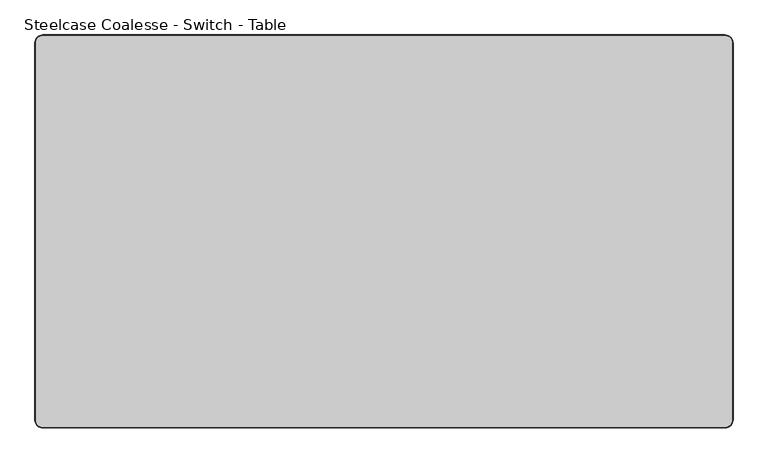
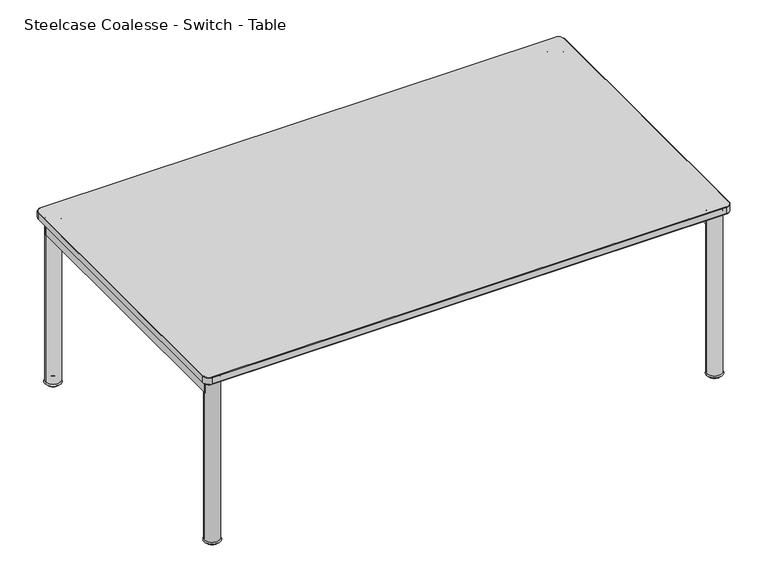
"""IFC4 building model written with IfcOpenShell, lengths in millimetres: furniture geometry, Steelcase Coalesse - Switch - Table : 24 3⁄8D x 43 1⁄4W."""

from ifc_helpers import new_model, si_unit, point, frame, frame_2d, origin, place, context, project, spatial, polyline, circle_curve, ellipse_curve, trimmed, segment, composite_curve, outline, extrude, source, transform, mapped, element, save
from ifc_brep_helpers import plane_surface, cylinder_surface, revolved_surface, advanced_brep


def steelcase_coalesse_switch_table_0ef8ef29(model_context):
    return source(origin(), model_context, "Body", "SolidModel", [
        advanced_brep(
        [(12.4295179, -619.252, 377.2369545), (0.0, -606.8224821, 377.2369545), (0.0, -606.8224821, 363.6309536), (12.4295179, -619.252, 363.6309536), (1085.7330835, -619.252, 363.6309536), (1085.7330835, -619.252, 377.2369545), (1098.55, -606.4350835, 363.6309536), (1098.55, -606.4350835, 377.2369545), (1098.55, -12.7743097, 363.6309536), (1098.55, -12.7743097, 377.2369545), (1085.7756903, 0.0, 363.6309536), (1085.7756903, 0.0, 377.2369545), (12.5332952, 0.0, 363.6309536), (12.5332952, 0.0, 377.2369545), (0.0, -12.5332952, 363.6309536), (0.0, -12.5332952, 377.2369545), (1.1384964, -606.8224821, 378.3754509), (12.4295179, -618.1135036, 378.3754509), (1085.7330835, -618.1135036, 378.3754509), (1097.4115036, -606.4350835, 378.3754509), (1097.4115036, -12.7743097, 378.3754509), (1085.7756903, -1.1384964, 378.3754509), (12.5332952, -1.1384964, 378.3754509), (1.1384964, -12.5332952, 378.3754509), (12.4295179, -618.1135036, 362.4924572), (1.1384964, -606.8224821, 362.4924572), (1.1384964, -12.5332952, 362.4924572), (12.5332952, -1.1384964, 362.4924572), (1085.7756903, -1.1384964, 362.4924572), (1097.4115036, -12.7743097, 362.4924572), (1097.4115036, -606.4350835, 362.4924572), (1085.7330835, -618.1135036, 362.4924572)],
        [
            (0, 1, circle_curve(frame((12.4295179, -606.8224821, 377.2369545), z_axis=(0.0, 0.0, -1.0), x_axis=(-1.0, 0.0, 0.0)), 12.4295179)),
            (1, 2),
            (2, 3, circle_curve(frame((12.4295179, -606.8224821, 363.6309536), z_axis=(0.0, 0.0, 1.0), x_axis=(-1.0, 0.0, 0.0)), 12.4295179)),
            (3, 0),
            (3, 4),
            (4, 5),
            (5, 0),
            (4, 6, circle_curve(frame((1085.7330835, -606.4350835, 363.6309536), z_axis=(0.0, 0.0, 1.0), x_axis=(0.0, -1.0, 0.0)), 12.8169165)),
            (6, 7),
            (7, 5, circle_curve(frame((1085.7330835, -606.4350835, 377.2369545), z_axis=(0.0, 0.0, -1.0), x_axis=(0.0, -1.0, 0.0)), 12.8169165)),
            (6, 8),
            (8, 9),
            (9, 7),
            (8, 10, circle_curve(frame((1085.7756903, -12.7743097, 363.6309536), z_axis=(0.0, 0.0, 1.0), x_axis=(1.0, 0.0, 0.0)), 12.7743097)),
            (10, 11),
            (11, 9, circle_curve(frame((1085.7756903, -12.7743097, 377.2369545), z_axis=(0.0, 0.0, -1.0), x_axis=(1.0, 0.0, 0.0)), 12.7743097)),
            (10, 12),
            (12, 13),
            (13, 11),
            (12, 14, circle_curve(frame((12.5332952, -12.5332952, 363.6309536), z_axis=(0.0, 0.0, 1.0), x_axis=(0.0, 1.0, 0.0)), 12.5332952)),
            (14, 15),
            (15, 13, circle_curve(frame((12.5332952, -12.5332952, 377.2369545), z_axis=(0.0, 0.0, -1.0), x_axis=(0.0, 1.0, 0.0)), 12.5332952)),
            (1, 15),
            (14, 2),
            (16, 17, circle_curve(frame((12.4295179, -606.8224821, 378.3754509), z_axis=(0.0, 0.0, 1.0), x_axis=(-1.0, 0.0, 0.0)), 11.2910215)),
            (17, 18),
            (18, 19, circle_curve(frame((1085.7330835, -606.4350835, 378.3754509), z_axis=(0.0, 0.0, 1.0), x_axis=(0.0, -1.0, 0.0)), 11.6784201)),
            (19, 20),
            (20, 21, circle_curve(frame((1085.7756903, -12.7743097, 378.3754509), z_axis=(0.0, 0.0, 1.0), x_axis=(1.0, 0.0, 0.0)), 11.6358133)),
            (21, 22),
            (22, 23, circle_curve(frame((12.5332952, -12.5332952, 378.3754509), z_axis=(0.0, 0.0, 1.0), x_axis=(0.0, 1.0, 0.0)), 11.3947988)),
            (23, 16),
            (24, 25, circle_curve(frame((12.4295179, -606.8224821, 362.4924572), z_axis=(0.0, 0.0, -1.0), x_axis=(-1.0, 0.0, 0.0)), 11.2910215)),
            (25, 26),
            (26, 27, circle_curve(frame((12.5332952, -12.5332952, 362.4924572), z_axis=(0.0, 0.0, -1.0), x_axis=(0.0, 1.0, 0.0)), 11.3947988)),
            (27, 28),
            (28, 29, circle_curve(frame((1085.7756903, -12.7743097, 362.4924572), z_axis=(0.0, 0.0, -1.0), x_axis=(1.0, 0.0, 0.0)), 11.6358133)),
            (29, 30),
            (30, 31, circle_curve(frame((1085.7330835, -606.4350835, 362.4924572), z_axis=(0.0, 0.0, -1.0), x_axis=(0.0, -1.0, 0.0)), 11.6784201)),
            (31, 24),
            (2, 25),
            (24, 3),
            (0, 17),
            (16, 1),
            (31, 4),
            (5, 18),
            (30, 6),
            (7, 19),
            (29, 8),
            (9, 20),
            (28, 10),
            (11, 21),
            (27, 12),
            (13, 22),
            (26, 14),
            (15, 23),
        ],
        [
            cylinder_surface(frame((12.4295179, -606.8224821, 0.0), z_axis=(0.0, 0.0, 1.0), x_axis=(-1.0, 0.0, 0.0)), 12.4295179),
            plane_surface(frame((12.4295179, -619.252, 363.6309536), z_axis=(0.0, -1.0, 0.0), x_axis=(1.0, 0.0, 0.0))),
            cylinder_surface(frame((1085.7330835, -606.4350835, 0.0), z_axis=(0.0, 0.0, 1.0), x_axis=(0.0, -1.0, 0.0)), 12.8169165),
            plane_surface(frame((1098.55, -606.4350835, 363.6309536), z_axis=(1.0, 0.0, 0.0), x_axis=(0.0, 1.0, 0.0))),
            cylinder_surface(frame((1085.7756903, -12.7743097, 0.0), z_axis=(0.0, 0.0, 1.0), x_axis=(1.0, 0.0, 0.0)), 12.7743097),
            plane_surface(frame((1085.7756903, 0.0, 363.6309536), z_axis=(0.0, 1.0, 0.0), x_axis=(-1.0, 0.0, 0.0))),
            cylinder_surface(frame((12.5332952, -12.5332952, 0.0), z_axis=(0.0, 0.0, 1.0), x_axis=(0.0, 1.0, 0.0)), 12.5332952),
            plane_surface(frame((0.0, -12.5332952, 363.6309536), z_axis=(-1.0, 0.0, 0.0), x_axis=(0.0, -1.0, 0.0))),
            plane_surface(frame((23.7205393, -606.8224821, 378.3754509), z_axis=(0.0, 0.0, 1.0), x_axis=(0.0, 1.0, 0.0))),
            plane_surface(frame((23.7205393, -606.8224821, 362.4924572), z_axis=(0.0, 0.0, -1.0), x_axis=(0.0, -1.0, 0.0))),
            revolved_surface(polyline([(1.1384964, -606.8224821, 362.4924572), (0.0, -606.8224821, 363.6309536)]), (12.4295179, -606.8224821, 0.0), (0.0, 0.0, 1.0)),
            revolved_surface(polyline([(0.0, -606.8224821, 377.2369545), (1.1384964, -606.8224821, 378.3754509)]), (12.4295179, -606.8224821, 0.0), (0.0, 0.0, 1.0)),
            plane_surface(frame((12.4295179, -618.1135036, 362.4924572), z_axis=(0.0, -0.7071067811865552, -0.7071067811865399), x_axis=(1.0, 0.0, 0.0))),
            plane_surface(frame((12.4295179, -619.252, 377.2369545), z_axis=(0.0, -0.7071067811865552, 0.7071067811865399), x_axis=(1.0, 0.0, 0.0))),
            revolved_surface(polyline([(1085.7330835, -618.1135036, 362.4924572), (1085.7330835, -619.252, 363.6309536)]), (1085.7330835, -606.4350835, 0.0), (0.0, 0.0, 1.0)),
            revolved_surface(polyline([(1085.7330835, -619.252, 377.2369545), (1085.7330835, -618.1135036, 378.3754509)]), (1085.7330835, -606.4350835, 0.0), (0.0, 0.0, 1.0)),
            plane_surface(frame((1097.4115036, -606.4350835, 362.4924572), z_axis=(0.7071067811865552, 0.0, -0.7071067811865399), x_axis=(0.0, 1.0, 0.0))),
            plane_surface(frame((1098.55, -606.4350835, 377.2369545), z_axis=(0.7071067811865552, 0.0, 0.7071067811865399), x_axis=(0.0, 1.0, 0.0))),
            revolved_surface(polyline([(1097.4115036, -12.7743097, 362.4924572), (1098.55, -12.7743097, 363.6309536)]), (1085.7756903, -12.7743097, 0.0), (0.0, 0.0, 1.0)),
            revolved_surface(polyline([(1098.55, -12.7743097, 377.2369545), (1097.4115036, -12.7743097, 378.3754509)]), (1085.7756903, -12.7743097, 0.0), (0.0, 0.0, 1.0)),
            plane_surface(frame((1085.7756903, -1.1384964, 362.4924572), z_axis=(0.0, 0.7071067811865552, -0.7071067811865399), x_axis=(-1.0, 0.0, 0.0))),
            plane_surface(frame((1085.7756903, 0.0, 377.2369545), z_axis=(0.0, 0.7071067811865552, 0.7071067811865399), x_axis=(-1.0, 0.0, 0.0))),
            revolved_surface(polyline([(12.5332952, -1.1384964, 362.4924572), (12.5332952, 0.0, 363.6309536)]), (12.5332952, -12.5332952, 0.0), (0.0, 0.0, 1.0)),
            revolved_surface(polyline([(12.5332952, 0.0, 377.2369545), (12.5332952, -1.1384964, 378.3754509)]), (12.5332952, -12.5332952, 0.0), (0.0, 0.0, 1.0)),
            plane_surface(frame((1.1384964, -12.5332952, 362.4924572), z_axis=(-0.7071067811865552, 0.0, -0.7071067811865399), x_axis=(0.0, -1.0, 0.0))),
            plane_surface(frame((0.0, -12.5332952, 377.2369545), z_axis=(-0.7071067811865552, 0.0, 0.7071067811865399), x_axis=(0.0, -1.0, 0.0))),
        ],
        [
            (0, [[1, 2, 3, 4]]),
            (1, [[-4, 5, 6, 7]]),
            (2, [[-6, 8, 9, 10]]),
            (3, [[-9, 11, 12, 13]]),
            (4, [[-12, 14, 15, 16]]),
            (5, [[-15, 17, 18, 19]]),
            (6, [[-18, 20, 21, 22]]),
            (7, [[-2, 23, -21, 24]]),
            (8, [[25, 26, 27, 28, 29, 30, 31, 32]]),
            (9, [[33, 34, 35, 36, 37, 38, 39, 40]]),
            (10, [[-3, 41, -33, 42]]),
            (11, [[-1, 43, -25, 44]]),
            (12, [[-5, -42, -40, 45]]),
            (13, [[-7, 46, -26, -43]]),
            (14, [[-8, -45, -39, 47]]),
            (15, [[-10, 48, -27, -46]]),
            (16, [[-11, -47, -38, 49]]),
            (17, [[-13, 50, -28, -48]]),
            (18, [[-14, -49, -37, 51]]),
            (19, [[-16, 52, -29, -50]]),
            (20, [[-17, -51, -36, 53]]),
            (21, [[-19, 54, -30, -52]]),
            (22, [[-20, -53, -35, 55]]),
            (23, [[-22, 56, -31, -54]]),
            (24, [[-24, -55, -34, -41]]),
            (25, [[-23, -44, -32, -56]]),
        ],
    ),
        advanced_brep(
        [(1061.395347, -597.1463726, 362.9951951), (1085.4382462, -597.1463726, 362.9951951), (1073.4167966, -597.1463726, 362.9951951), (1057.8912492, -597.1463726, 359.4910973), (1088.942344, -597.1463726, 359.4910973), (1057.8912492, -597.1463726, 7.4855095), (1088.942344, -597.1463726, 7.4855095), (1062.1878445, -597.1463726, 7.4855095), (1084.6457487, -597.1463726, 7.4855095), (1056.6179682, -597.1463726, 3.6067942), (1090.215625, -597.1463726, 3.6067942), (1060.4919211, -597.1463726, 0.0), (1086.3416721, -597.1463726, 0.0), (1073.4167966, -597.1463726, 0.0)],
        [
            (0, 1, circle_curve(frame((1073.4167966, -597.1463726, 362.9951951), z_axis=(0.0, 0.0, 1.0), x_axis=(1.0, 0.0, 0.0)), 12.0214496)),
            (1, 2),
            (2, 0),
            (1, 0, circle_curve(frame((1073.4167966, -597.1463726, 362.9951951), z_axis=(0.0, 0.0, 1.0), x_axis=(1.0, 0.0, 0.0)), 12.0214496)),
            (3, 4, circle_curve(frame((1073.4167966, -597.1463726, 359.4910973), z_axis=(0.0, 0.0, 1.0), x_axis=(1.0, 0.0, 0.0)), 15.5255474)),
            (4, 1, circle_curve(frame((1085.4382462, -597.1463726, 359.4910973), z_axis=(0.0, -1.0, 0.0), x_axis=(1.0, 0.0, 0.0)), 3.5040978)),
            (0, 3, circle_curve(frame((1061.395347, -597.1463726, 359.4910973), z_axis=(0.0, -1.0, 0.0), x_axis=(-1.0, 0.0, 0.0)), 3.5040978)),
            (4, 3, circle_curve(frame((1073.4167966, -597.1463726, 359.4910973), z_axis=(0.0, 0.0, 1.0), x_axis=(1.0, 0.0, 0.0)), 15.5255474)),
            (5, 6, circle_curve(frame((1073.4167966, -597.1463726, 7.4855095), z_axis=(0.0, 0.0, 1.0), x_axis=(1.0, 0.0, 0.0)), 15.5255474)),
            (6, 4),
            (3, 5),
            (6, 5, circle_curve(frame((1073.4167966, -597.1463726, 7.4855095), z_axis=(0.0, 0.0, 1.0), x_axis=(1.0, 0.0, 0.0)), 15.5255474)),
            (7, 8, circle_curve(frame((1073.4167966, -597.1463726, 7.4855095), z_axis=(0.0, 0.0, 1.0), x_axis=(1.0, 0.0, 0.0)), 11.2289521)),
            (8, 6),
            (5, 7),
            (8, 7, circle_curve(frame((1073.4167966, -597.1463726, 7.4855095), z_axis=(0.0, 0.0, 1.0), x_axis=(1.0, 0.0, 0.0)), 11.2289521)),
            (9, 10, circle_curve(frame((1073.4167966, -597.1463726, 3.6067942), z_axis=(0.0, 0.0, 1.0), x_axis=(1.0, 0.0, 0.0)), 16.7988284)),
            (10, 8),
            (7, 9),
            (10, 9, circle_curve(frame((1073.4167966, -597.1463726, 3.6067942), z_axis=(0.0, 0.0, 1.0), x_axis=(1.0, 0.0, 0.0)), 16.7988284)),
            (11, 12, circle_curve(frame((1073.4167966, -597.1463726, 0.0), z_axis=(0.0, 0.0, 1.0), x_axis=(1.0, 0.0, 0.0)), 12.9248755)),
            (12, 10),
            (9, 11),
            (12, 11, circle_curve(frame((1073.4167966, -597.1463726, 0.0), z_axis=(0.0, 0.0, 1.0), x_axis=(1.0, 0.0, 0.0)), 12.9248755)),
            (13, 12),
            (11, 13),
        ],
        [
            plane_surface(frame((1073.4167966, -597.1463726, 362.9951951), z_axis=(0.0, 0.0, 1.0), x_axis=(1.0, 0.0, 0.0))),
            revolved_surface(trimmed(ellipse_curve(frame((1085.4382462, -597.1463726, 359.4910973), z_axis=(0.0, 1.0, 0.0), x_axis=(1.0, 0.0, 0.0)), 3.5040978, 3.5040978), [point((1085.4382462, -597.1463726, 362.9951951))], [point((1088.942344, -597.1463726, 359.4910973))], True, "CARTESIAN"), (1073.4167966, -597.1463726, 362.9951951), (0.0, 0.0, -1.0)),
            cylinder_surface(frame((1073.4167966, -597.1463726, 362.9951951), z_axis=(0.0, 0.0, -1.0), x_axis=(1.0, 0.0, 0.0)), 15.5255474),
            plane_surface(frame((1073.4167966, -597.1463726, 7.4855095), z_axis=(0.0, 0.0, -1.0), x_axis=(1.0, 0.0, 0.0))),
            revolved_surface(polyline([(1084.6457487, -597.1463726, 7.4855095), (1090.215625, -597.1463726, 3.6067942)]), (1073.4167966, -597.1463726, 362.9951951), (0.0, 0.0, -1.0)),
            revolved_surface(polyline([(1090.215625, -597.1463726, 3.6067942), (1086.3416721, -597.1463726, 0.0)]), (1073.4167966, -597.1463726, 362.9951951), (0.0, 0.0, -1.0)),
            plane_surface(frame((1073.4167966, -597.1463726, 0.0), z_axis=(0.0, 0.0, -1.0), x_axis=(1.0, 0.0, 0.0))),
        ],
        [
            (0, [[1, 2, 3]]),
            (0, [[4, -3, -2]]),
            (1, [[5, 6, -1, 7]]),
            (1, [[8, -7, -4, -6]]),
            (2, [[9, 10, -5, 11]]),
            (2, [[12, -11, -8, -10]]),
            (3, [[13, 14, -9, 15]]),
            (3, [[16, -15, -12, -14]]),
            (4, [[17, 18, -13, 19]]),
            (4, [[20, -19, -16, -18]]),
            (5, [[21, 22, -17, 23]]),
            (5, [[24, -23, -20, -22]]),
            (6, [[25, -21, 26]]),
            (6, [[-26, -24, -25]]),
        ],
    ),
        advanced_brep(
        [(25.1332034, -597.1463726, 362.9951951), (13.1117538, -597.1463726, 362.9951951), (37.154653, -597.1463726, 362.9951951), (9.607656, -597.1463726, 359.4910973), (40.6587508, -597.1463726, 359.4910973), (9.607656, -597.1463726, 7.4855095), (40.6587508, -597.1463726, 7.4855095), (13.9042513, -597.1463726, 7.4855095), (36.3621555, -597.1463726, 7.4855095), (8.334375, -597.1463726, 3.6067942), (41.9320318, -597.1463726, 3.6067942), (12.2083279, -597.1463726, 0.0), (38.0580789, -597.1463726, 0.0), (25.1332034, -597.1463726, 0.0)],
        [
            (0, 1),
            (1, 2, circle_curve(frame((25.1332034, -597.1463726, 362.9951951), z_axis=(0.0, 0.0, 1.0), x_axis=(-1.0, 0.0, 0.0)), 12.0214496)),
            (2, 0),
            (2, 1, circle_curve(frame((25.1332034, -597.1463726, 362.9951951), z_axis=(0.0, 0.0, 1.0), x_axis=(-1.0, 0.0, 0.0)), 12.0214496)),
            (1, 3, circle_curve(frame((13.1117538, -597.1463726, 359.4910973), z_axis=(0.0, -1.0, 0.0), x_axis=(1.0, 0.0, 0.0)), 3.5040978)),
            (3, 4, circle_curve(frame((25.1332034, -597.1463726, 359.4910973), z_axis=(0.0, 0.0, 1.0), x_axis=(-1.0, 0.0, 0.0)), 15.5255474)),
            (4, 2, circle_curve(frame((37.154653, -597.1463726, 359.4910973), z_axis=(0.0, -1.0, 0.0), x_axis=(-1.0, 0.0, 0.0)), 3.5040978)),
            (4, 3, circle_curve(frame((25.1332034, -597.1463726, 359.4910973), z_axis=(0.0, 0.0, 1.0), x_axis=(-1.0, 0.0, 0.0)), 15.5255474)),
            (3, 5),
            (5, 6, circle_curve(frame((25.1332034, -597.1463726, 7.4855095), z_axis=(0.0, 0.0, 1.0), x_axis=(-1.0, 0.0, 0.0)), 15.5255474)),
            (6, 4),
            (6, 5, circle_curve(frame((25.1332034, -597.1463726, 7.4855095), z_axis=(0.0, 0.0, 1.0), x_axis=(-1.0, 0.0, 0.0)), 15.5255474)),
            (5, 7),
            (7, 8, circle_curve(frame((25.1332034, -597.1463726, 7.4855095), z_axis=(0.0, 0.0, 1.0), x_axis=(-1.0, 0.0, 0.0)), 11.2289521)),
            (8, 6),
            (8, 7, circle_curve(frame((25.1332034, -597.1463726, 7.4855095), z_axis=(0.0, 0.0, 1.0), x_axis=(-1.0, 0.0, 0.0)), 11.2289521)),
            (7, 9),
            (9, 10, circle_curve(frame((25.1332034, -597.1463726, 3.6067942), z_axis=(0.0, 0.0, 1.0), x_axis=(-1.0, 0.0, 0.0)), 16.7988284)),
            (10, 8),
            (10, 9, circle_curve(frame((25.1332034, -597.1463726, 3.6067942), z_axis=(0.0, 0.0, 1.0), x_axis=(-1.0, 0.0, 0.0)), 16.7988284)),
            (9, 11),
            (11, 12, circle_curve(frame((25.1332034, -597.1463726, 0.0), z_axis=(0.0, 0.0, 1.0), x_axis=(-1.0, 0.0, 0.0)), 12.9248755)),
            (12, 10),
            (12, 11, circle_curve(frame((25.1332034, -597.1463726, 0.0), z_axis=(0.0, 0.0, 1.0), x_axis=(-1.0, 0.0, 0.0)), 12.9248755)),
            (11, 13),
            (13, 12),
        ],
        [
            plane_surface(frame((25.1332034, -597.1463726, 362.9951951), z_axis=(0.0, 0.0, 1.0), x_axis=(-1.0, 0.0, 0.0))),
            revolved_surface(trimmed(ellipse_curve(frame((13.1117538, -597.1463726, 359.4910973), z_axis=(0.0, 1.0, 0.0), x_axis=(1.0, 0.0, 0.0)), 3.5040978, 3.5040978), [point((9.607656, -597.1463726, 359.4910973))], [point((13.1117538, -597.1463726, 362.9951951))], True, "CARTESIAN"), (25.1332034, -597.1463726, 362.9951951), (0.0, 0.0, 1.0)),
            cylinder_surface(frame((25.1332034, -597.1463726, 362.9951951), z_axis=(0.0, 0.0, 1.0), x_axis=(-1.0, 0.0, 0.0)), 15.5255474),
            plane_surface(frame((25.1332034, -597.1463726, 7.4855095), z_axis=(0.0, 0.0, -1.0), x_axis=(-1.0, 0.0, 0.0))),
            revolved_surface(polyline([(8.334375, -597.1463726, 3.6067942), (13.9042513, -597.1463726, 7.4855095)]), (25.1332034, -597.1463726, 362.9951951), (0.0, 0.0, 1.0)),
            revolved_surface(polyline([(12.2083279, -597.1463726, 0.0), (8.334375, -597.1463726, 3.6067942)]), (25.1332034, -597.1463726, 362.9951951), (0.0, 0.0, 1.0)),
            plane_surface(frame((25.1332034, -597.1463726, 0.0), z_axis=(0.0, 0.0, -1.0), x_axis=(-1.0, 0.0, 0.0))),
        ],
        [
            (0, [[1, 2, 3]]),
            (0, [[-3, 4, -1]]),
            (1, [[-2, 5, 6, 7]]),
            (1, [[-4, -7, 8, -5]]),
            (2, [[-6, 9, 10, 11]]),
            (2, [[-8, -11, 12, -9]]),
            (3, [[-10, 13, 14, 15]]),
            (3, [[-12, -15, 16, -13]]),
            (4, [[-14, 17, 18, 19]]),
            (4, [[-16, -19, 20, -17]]),
            (5, [[-18, 21, 22, 23]]),
            (5, [[-20, -23, 24, -21]]),
            (6, [[-22, 25, 26]]),
            (6, [[-24, -26, -25]]),
        ],
    ),
        advanced_brep(
        [(1073.4167966, -22.1056274, 362.9951951), (1085.4382462, -22.1056274, 362.9951951), (1061.395347, -22.1056274, 362.9951951), (1088.942344, -22.1056274, 359.4910973), (1057.8912492, -22.1056274, 359.4910973), (1088.942344, -22.1056274, 7.4855095), (1057.8912492, -22.1056274, 7.4855095), (1084.6457487, -22.1056274, 7.4855095), (1062.1878445, -22.1056274, 7.4855095), (1090.215625, -22.1056274, 3.6067942), (1056.6179682, -22.1056274, 3.6067942), (1086.3416721, -22.1056274, 0.0), (1060.4919211, -22.1056274, 0.0), (1073.4167966, -22.1056274, 0.0)],
        [
            (0, 1),
            (1, 2, circle_curve(frame((1073.4167966, -22.1056274, 362.9951951), z_axis=(0.0, 0.0, 1.0), x_axis=(1.0, 0.0, 0.0)), 12.0214496)),
            (2, 0),
            (2, 1, circle_curve(frame((1073.4167966, -22.1056274, 362.9951951), z_axis=(0.0, 0.0, 1.0), x_axis=(1.0, 0.0, 0.0)), 12.0214496)),
            (1, 3, circle_curve(frame((1085.4382462, -22.1056274, 359.4910973), z_axis=(0.0, 1.0, 0.0), x_axis=(-1.0, 0.0, 0.0)), 3.5040978)),
            (3, 4, circle_curve(frame((1073.4167966, -22.1056274, 359.4910973), z_axis=(0.0, 0.0, 1.0), x_axis=(1.0, 0.0, 0.0)), 15.5255474)),
            (4, 2, circle_curve(frame((1061.395347, -22.1056274, 359.4910973), z_axis=(0.0, 1.0, 0.0), x_axis=(1.0, 0.0, 0.0)), 3.5040978)),
            (4, 3, circle_curve(frame((1073.4167966, -22.1056274, 359.4910973), z_axis=(0.0, 0.0, 1.0), x_axis=(1.0, 0.0, 0.0)), 15.5255474)),
            (3, 5),
            (5, 6, circle_curve(frame((1073.4167966, -22.1056274, 7.4855095), z_axis=(0.0, 0.0, 1.0), x_axis=(1.0, 0.0, 0.0)), 15.5255474)),
            (6, 4),
            (6, 5, circle_curve(frame((1073.4167966, -22.1056274, 7.4855095), z_axis=(0.0, 0.0, 1.0), x_axis=(1.0, 0.0, 0.0)), 15.5255474)),
            (5, 7),
            (7, 8, circle_curve(frame((1073.4167966, -22.1056274, 7.4855095), z_axis=(0.0, 0.0, 1.0), x_axis=(1.0, 0.0, 0.0)), 11.2289521)),
            (8, 6),
            (8, 7, circle_curve(frame((1073.4167966, -22.1056274, 7.4855095), z_axis=(0.0, 0.0, 1.0), x_axis=(1.0, 0.0, 0.0)), 11.2289521)),
            (7, 9),
            (9, 10, circle_curve(frame((1073.4167966, -22.1056274, 3.6067942), z_axis=(0.0, 0.0, 1.0), x_axis=(1.0, 0.0, 0.0)), 16.7988284)),
            (10, 8),
            (10, 9, circle_curve(frame((1073.4167966, -22.1056274, 3.6067942), z_axis=(0.0, 0.0, 1.0), x_axis=(1.0, 0.0, 0.0)), 16.7988284)),
            (9, 11),
            (11, 12, circle_curve(frame((1073.4167966, -22.1056274, 0.0), z_axis=(0.0, 0.0, 1.0), x_axis=(1.0, 0.0, 0.0)), 12.9248755)),
            (12, 10),
            (12, 11, circle_curve(frame((1073.4167966, -22.1056274, 0.0), z_axis=(0.0, 0.0, 1.0), x_axis=(1.0, 0.0, 0.0)), 12.9248755)),
            (11, 13),
            (13, 12),
        ],
        [
            plane_surface(frame((1073.4167966, -22.1056274, 362.9951951), z_axis=(0.0, 0.0, 1.0), x_axis=(1.0, 0.0, 0.0))),
            revolved_surface(trimmed(ellipse_curve(frame((1085.4382462, -22.1056274, 359.4910973), z_axis=(0.0, -1.0, 0.0), x_axis=(-1.0, 0.0, 0.0)), 3.5040978, 3.5040978), [point((1088.942344, -22.1056274, 359.4910973))], [point((1085.4382462, -22.1056274, 362.9951951))], True, "CARTESIAN"), (1073.4167966, -22.1056274, 362.9951951), (0.0, 0.0, 1.0)),
            cylinder_surface(frame((1073.4167966, -22.1056274, 362.9951951), z_axis=(0.0, 0.0, 1.0), x_axis=(1.0, 0.0, 0.0)), 15.5255474),
            plane_surface(frame((1073.4167966, -22.1056274, 7.4855095), z_axis=(0.0, 0.0, -1.0), x_axis=(1.0, 0.0, 0.0))),
            revolved_surface(polyline([(1090.215625, -22.1056274, 3.6067942), (1084.6457487, -22.1056274, 7.4855095)]), (1073.4167966, -22.1056274, 362.9951951), (0.0, 0.0, 1.0)),
            revolved_surface(polyline([(1086.3416721, -22.1056274, 0.0), (1090.215625, -22.1056274, 3.6067942)]), (1073.4167966, -22.1056274, 362.9951951), (0.0, 0.0, 1.0)),
            plane_surface(frame((1073.4167966, -22.1056274, 0.0), z_axis=(0.0, 0.0, -1.0), x_axis=(1.0, 0.0, 0.0))),
        ],
        [
            (0, [[1, 2, 3]]),
            (0, [[-3, 4, -1]]),
            (1, [[-2, 5, 6, 7]]),
            (1, [[-4, -7, 8, -5]]),
            (2, [[-6, 9, 10, 11]]),
            (2, [[-8, -11, 12, -9]]),
            (3, [[-10, 13, 14, 15]]),
            (3, [[-12, -15, 16, -13]]),
            (4, [[-14, 17, 18, 19]]),
            (4, [[-16, -19, 20, -17]]),
            (5, [[-18, 21, 22, 23]]),
            (5, [[-20, -23, 24, -21]]),
            (6, [[-22, 25, 26]]),
            (6, [[-24, -26, -25]]),
        ],
    ),
        advanced_brep(
        [(37.154653, -22.1056274, 362.9951951), (13.1117538, -22.1056274, 362.9951951), (25.1332034, -22.1056274, 362.9951951), (40.6587508, -22.1056274, 359.4910973), (9.607656, -22.1056274, 359.4910973), (40.6587508, -22.1056274, 7.4855095), (9.607656, -22.1056274, 7.4855095), (36.3621555, -22.1056274, 7.4855095), (13.9042513, -22.1056274, 7.4855095), (41.9320318, -22.1056274, 3.6067942), (8.334375, -22.1056274, 3.6067942), (38.0580789, -22.1056274, 0.0), (12.2083279, -22.1056274, 0.0), (25.1332034, -22.1056274, 0.0)],
        [
            (0, 1, circle_curve(frame((25.1332034, -22.1056274, 362.9951951), z_axis=(0.0, 0.0, 1.0), x_axis=(-1.0, 0.0, 0.0)), 12.0214496)),
            (1, 2),
            (2, 0),
            (1, 0, circle_curve(frame((25.1332034, -22.1056274, 362.9951951), z_axis=(0.0, 0.0, 1.0), x_axis=(-1.0, 0.0, 0.0)), 12.0214496)),
            (3, 4, circle_curve(frame((25.1332034, -22.1056274, 359.4910973), z_axis=(0.0, 0.0, 1.0), x_axis=(-1.0, 0.0, 0.0)), 15.5255474)),
            (4, 1, circle_curve(frame((13.1117538, -22.1056274, 359.4910973), z_axis=(0.0, 1.0, 0.0), x_axis=(1.0, 0.0, 0.0)), 3.5040978)),
            (0, 3, circle_curve(frame((37.154653, -22.1056274, 359.4910973), z_axis=(0.0, 1.0, 0.0), x_axis=(-1.0, 0.0, 0.0)), 3.5040978)),
            (4, 3, circle_curve(frame((25.1332034, -22.1056274, 359.4910973), z_axis=(0.0, 0.0, 1.0), x_axis=(-1.0, 0.0, 0.0)), 15.5255474)),
            (5, 6, circle_curve(frame((25.1332034, -22.1056274, 7.4855095), z_axis=(0.0, 0.0, 1.0), x_axis=(-1.0, 0.0, 0.0)), 15.5255474)),
            (6, 4),
            (3, 5),
            (6, 5, circle_curve(frame((25.1332034, -22.1056274, 7.4855095), z_axis=(0.0, 0.0, 1.0), x_axis=(-1.0, 0.0, 0.0)), 15.5255474)),
            (7, 8, circle_curve(frame((25.1332034, -22.1056274, 7.4855095), z_axis=(0.0, 0.0, 1.0), x_axis=(-1.0, 0.0, 0.0)), 11.2289521)),
            (8, 6),
            (5, 7),
            (8, 7, circle_curve(frame((25.1332034, -22.1056274, 7.4855095), z_axis=(0.0, 0.0, 1.0), x_axis=(-1.0, 0.0, 0.0)), 11.2289521)),
            (9, 10, circle_curve(frame((25.1332034, -22.1056274, 3.6067942), z_axis=(0.0, 0.0, 1.0), x_axis=(-1.0, 0.0, 0.0)), 16.7988284)),
            (10, 8),
            (7, 9),
            (10, 9, circle_curve(frame((25.1332034, -22.1056274, 3.6067942), z_axis=(0.0, 0.0, 1.0), x_axis=(-1.0, 0.0, 0.0)), 16.7988284)),
            (11, 12, circle_curve(frame((25.1332034, -22.1056274, 0.0), z_axis=(0.0, 0.0, 1.0), x_axis=(-1.0, 0.0, 0.0)), 12.9248755)),
            (12, 10),
            (9, 11),
            (12, 11, circle_curve(frame((25.1332034, -22.1056274, 0.0), z_axis=(0.0, 0.0, 1.0), x_axis=(-1.0, 0.0, 0.0)), 12.9248755)),
            (13, 12),
            (11, 13),
        ],
        [
            plane_surface(frame((25.1332034, -22.1056274, 362.9951951), z_axis=(0.0, 0.0, 1.0), x_axis=(-1.0, 0.0, 0.0))),
            revolved_surface(trimmed(ellipse_curve(frame((13.1117538, -22.1056274, 359.4910973), z_axis=(0.0, -1.0, 0.0), x_axis=(1.0, 0.0, 0.0)), 3.5040978, 3.5040978), [point((13.1117538, -22.1056274, 362.9951951))], [point((9.607656, -22.1056274, 359.4910973))], True, "CARTESIAN"), (25.1332034, -22.1056274, 362.9951951), (0.0, 0.0, -1.0)),
            cylinder_surface(frame((25.1332034, -22.1056274, 362.9951951), z_axis=(0.0, 0.0, -1.0), x_axis=(-1.0, 0.0, 0.0)), 15.5255474),
            plane_surface(frame((25.1332034, -22.1056274, 7.4855095), z_axis=(0.0, 0.0, -1.0), x_axis=(-1.0, 0.0, 0.0))),
            revolved_surface(polyline([(13.9042513, -22.1056274, 7.4855095), (8.334375, -22.1056274, 3.6067942)]), (25.1332034, -22.1056274, 362.9951951), (0.0, 0.0, -1.0)),
            revolved_surface(polyline([(8.334375, -22.1056274, 3.6067942), (12.2083279, -22.1056274, 0.0)]), (25.1332034, -22.1056274, 362.9951951), (0.0, 0.0, -1.0)),
            plane_surface(frame((25.1332034, -22.1056274, 0.0), z_axis=(0.0, 0.0, -1.0), x_axis=(-1.0, 0.0, 0.0))),
        ],
        [
            (0, [[1, 2, 3]]),
            (0, [[4, -3, -2]]),
            (1, [[5, 6, -1, 7]]),
            (1, [[8, -7, -4, -6]]),
            (2, [[9, 10, -5, 11]]),
            (2, [[12, -11, -8, -10]]),
            (3, [[13, 14, -9, 15]]),
            (3, [[16, -15, -12, -14]]),
            (4, [[17, 18, -13, 19]]),
            (4, [[20, -19, -16, -18]]),
            (5, [[21, 22, -17, 23]]),
            (5, [[24, -23, -20, -22]]),
            (6, [[25, -21, 26]]),
            (6, [[-26, -24, -25]]),
        ],
    ),
        extrude(outline(composite_curve([segment(trimmed(circle_curve(frame_2d((24.214752, -24.5419284)), 15.0271345), [point((9.1876175, -24.5419284))], [point((39.2418864, -24.5419284))], False, "CARTESIAN"), True, "CONTINUOUS"), segment(polyline([(39.2418864, -24.5419284), (39.2418864, -294.4812673), (1059.3081136, -294.4812673), (1059.3081136, -24.3028353)]), True, "CONTINUOUS"), segment(trimmed(circle_curve(frame_2d((1074.335248, -24.3028353)), 15.0271345), [point((1059.3081136, -24.3028353))], [point((1089.3623825, -24.3028353))], False, "CARTESIAN"), True, "CONTINUOUS"), segment(polyline([(1089.3623825, -24.3028353), (1089.3623825, -595.4866188)]), True, "CONTINUOUS"), segment(trimmed(circle_curve(frame_2d((1074.335248, -595.4866188)), 15.0271345), [point((1089.3623825, -595.4866188))], [point((1059.3081136, -595.4866188))], False, "CARTESIAN"), True, "CONTINUOUS"), segment(polyline([(1059.3081136, -595.4866188), (1059.3081136, -324.6437431), (39.2418864, -324.6437431), (39.2418864, -595.3635411)]), True, "CONTINUOUS"), segment(trimmed(circle_curve(frame_2d((24.214752, -595.3635411)), 15.0271345), [point((39.2418864, -595.3635411))], [point((9.1876175, -595.3635411))], False, "CARTESIAN"), True, "CONTINUOUS"), segment(polyline([(9.1876175, -595.3635411), (9.1876175, -24.5419284)]), True, "CONTINUOUS")], self_intersect=False)), frame((0.0, 0.0, 332.4399311), z_axis=(0.0, 0.0, 1.0), x_axis=(1.0, 0.0, 0.0)), (0.0, 0.0, 1.0), 30.0525261),
    ])


if __name__ == "__main__":
    model = new_model("IFC4")
    model_context = context("Model", 3, world=origin())
    ifc_project = project(units=[si_unit("LENGTHUNIT", "METRE", prefix="MILLI")], contexts=[model_context])
    site = spatial("IfcSite", under=ifc_project)
    building = spatial("IfcBuilding", under=site)
    placement = place(None, origin())
    steelcase_coalesse_switch_table_shape = steelcase_coalesse_switch_table_0ef8ef29(model_context)
    element("IfcFurniture", 1, ObjectType="Steelcase Coalesse - Switch - Table : 24 3⁄8D x 43 1⁄4W", at=placement, inside=building, context=model_context, shape_type="MappedRepresentation", body=[
        mapped(steelcase_coalesse_switch_table_shape, transform((0.0, 0.0, 0.0), x_axis=(1.0, 0.0, 0.0), y_axis=(0.0, 1.0, 0.0), z_axis=(0.0, 0.0, 1.0))),
    ])
    save(model, "model.ifc")
